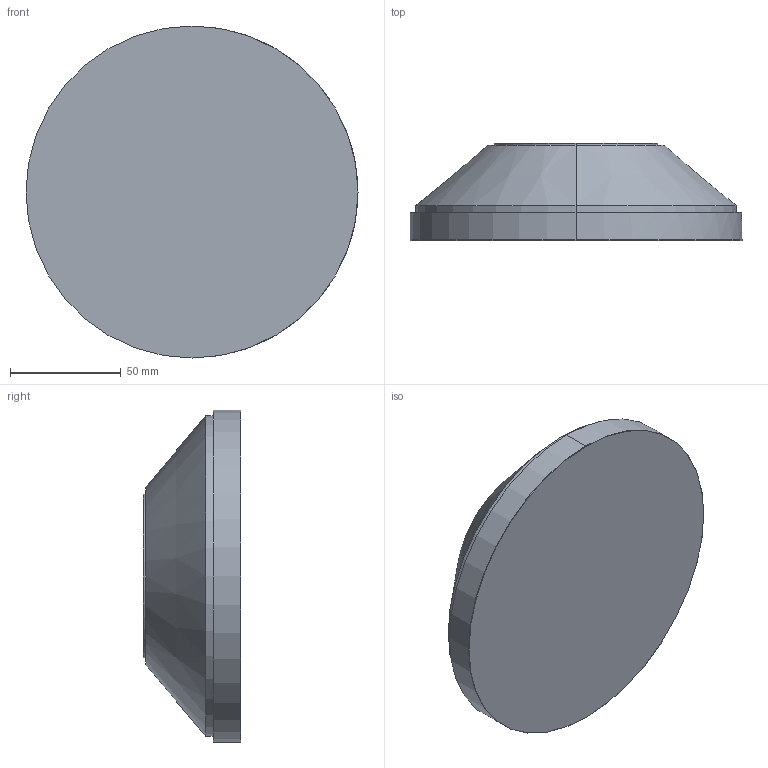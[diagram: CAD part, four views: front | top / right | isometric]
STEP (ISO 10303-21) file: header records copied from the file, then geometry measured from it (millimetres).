
FILE_DESCRIPTION (( 'STEP AP203' ), '1' );
FILE_NAME ('EZ-0053-150 Standardlager Bestell-Nr. 0006218.STEP', '2021-09-16T15:17:52', ( '' ), ( '' ), 'SwSTEP 2.0', 'SolidWorks 2021', '' );
FILE_SCHEMA (( 'CONFIG_CONTROL_DESIGN' ));
Length unit declared in the file: millimetre
Products named in the file (1): EZ-0053-150 Standardlager  Bestell-Nr. 0006218
Bounding box: 150 x 44 x 150 mm (x, y, z)
Volume: 553976 mm3; surface area: 83591.2 mm2
Topology: 4 solids, 4 shells, 79 faces, 174 edges, 108 vertices
Faces by surface type: cylinder 34, plane 23, cone 12, torus 8, sphere 2
Entity records: 2303 total; most frequent: CARTESIAN_POINT 428, DIRECTION 420, ORIENTED_EDGE 340, AXIS2_PLACEMENT_3D 178, EDGE_CURVE 170, VERTEX_POINT 108, CIRCLE 98, EDGE_LOOP 90
